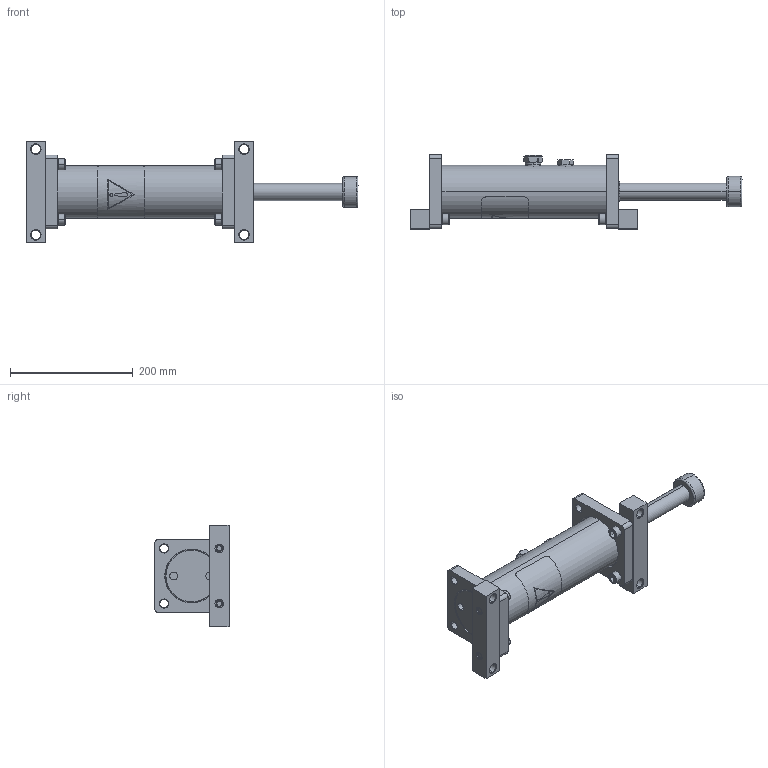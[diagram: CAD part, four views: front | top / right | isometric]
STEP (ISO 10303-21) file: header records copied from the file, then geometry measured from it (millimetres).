
FILE_DESCRIPTION (( 'STEP AP214' ), '1' );
FILE_NAME ('LDD1.5X6.STEP', '2019-01-16T01:28:41', ( 'user' ), ( 'Microsoft' ), 'SwSTEP 2.0', 'SolidWorks 2016', '' );
FILE_SCHEMA (( 'AUTOMOTIVE_DESIGN' ));
Length unit declared in the file: inch
Products named in the file (1): LDD1.5X6
Bounding box: 542 x 121 x 165 mm (x, y, z)
Surface area: 269042.3 mm2 (no closed solid volume)
Topology: 0 solids, 26 shells, 297 faces, 789 edges, 533 vertices
Faces by surface type: plane 106, cylinder 100, cone 61, torus 30
Entity records: 14838 total; most frequent: CARTESIAN_POINT 7253, DIRECTION 1614, ORIENTED_EDGE 1440, EDGE_CURVE 789, AXIS2_PLACEMENT_3D 642, VERTEX_POINT 533, EDGE_LOOP 360, CIRCLE 344
